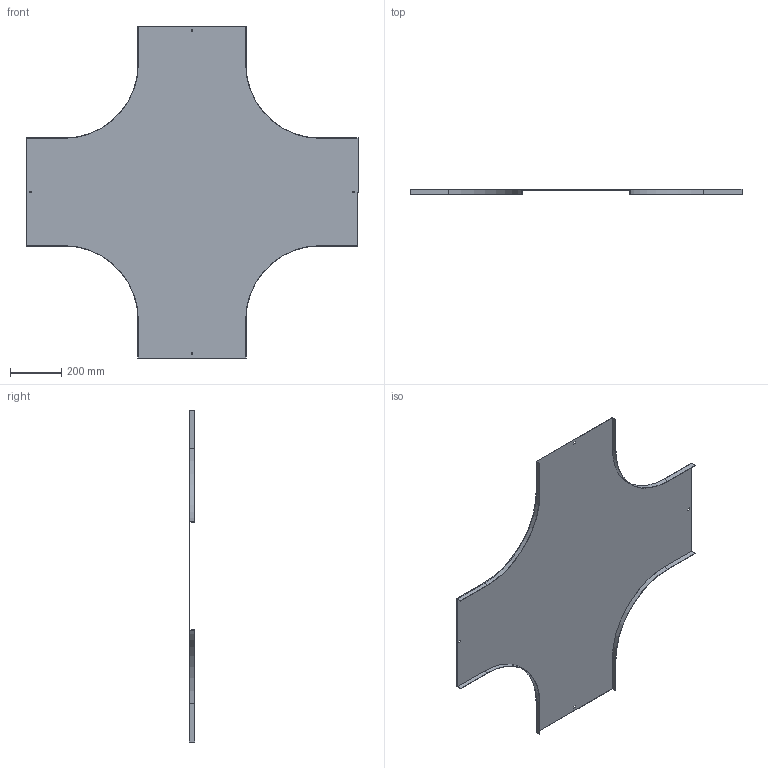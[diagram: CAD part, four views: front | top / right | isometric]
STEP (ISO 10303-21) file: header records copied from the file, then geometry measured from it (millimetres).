
FILE_DESCRIPTION (( 'STEP AP214' ), '1' );
FILE_NAME ('17N3P400.step', '2025-02-21T13:57:03', ( '' ), ( '' ), 'SwSTEP 2.0', 'SolidWorks 2023', '' );
FILE_SCHEMA (( 'AUTOMOTIVE_DESIGN' ));
Length unit declared in the file: millimetre
Products named in the file (1): 17N3P400
Bounding box: 1300 x 20 x 1300 mm (x, y, z)
Volume: 1571859.4 mm3; surface area: 2103277.6 mm2
Topology: 1 solids, 1 shells, 50 faces, 144 edges, 96 vertices
Faces by surface type: plane 42, cylinder 8
Entity records: 1663 total; most frequent: CARTESIAN_POINT 291, ORIENTED_EDGE 288, DIRECTION 262, EDGE_CURVE 144, LINE 128, VECTOR 128, VERTEX_POINT 96, AXIS2_PLACEMENT_3D 67
